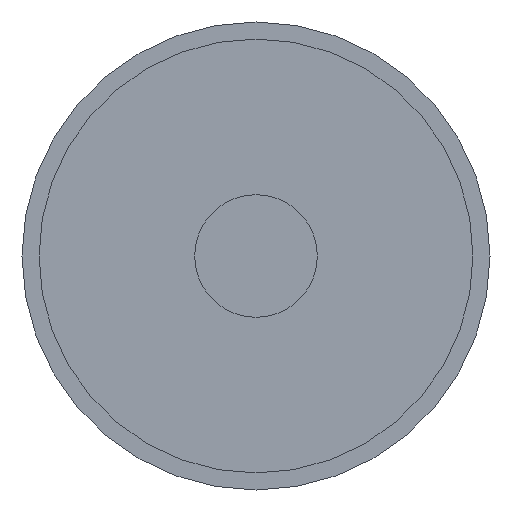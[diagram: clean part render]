
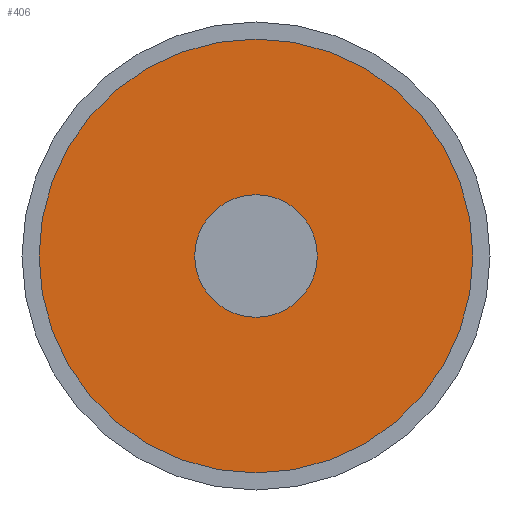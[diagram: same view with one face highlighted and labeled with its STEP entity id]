
A CAD part, front view. The second image highlights one B-rep face of the part: STEP entity #406.
In plain terms, the highlighted planar face has unit normal (0, -1, 0).
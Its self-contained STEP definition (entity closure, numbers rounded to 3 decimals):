
#349=CARTESIAN_POINT('',(-87.832,87.62,0.0));
#350=VERTEX_POINT('',#349);
#357=CARTESIAN_POINT('',(7.668,87.62,0.0));
#358=VERTEX_POINT('',#357);
#359=CARTESIAN_POINT('',(-40.082,87.62,0.0));
#360=DIRECTION('',(0.0,-1.0,0.0));
#361=DIRECTION('',(-1.0,0.0,0.0));
#362=AXIS2_PLACEMENT_3D('',#359,#360,#361);
#363=CIRCLE('',#362,47.75);
#364=EDGE_CURVE('',#358,#350,#363,.T.);
#366=CARTESIAN_POINT('',(-40.082,87.62,0.0));
#367=DIRECTION('',(0.0,-1.0,0.0));
#368=DIRECTION('',(-1.0,0.0,0.0));
#369=AXIS2_PLACEMENT_3D('',#366,#367,#368);
#370=CIRCLE('',#369,47.75);
#371=EDGE_CURVE('',#350,#358,#370,.T.);
#377=CARTESIAN_POINT('',(-135.582,87.62,95.5));
#378=DIRECTION('',(0.0,-1.0,0.0));
#379=DIRECTION('',(0.0,0.0,-1.0));
#380=AXIS2_PLACEMENT_3D('',#377,#378,#379);
#381=PLANE('',#380);
#382=ORIENTED_EDGE('',*,*,#371,.T.);
#383=ORIENTED_EDGE('',*,*,#364,.T.);
#384=EDGE_LOOP('',(#382,#383));
#385=FACE_OUTER_BOUND('',#384,.T.);
#386=CARTESIAN_POINT('',(-26.582,87.62,0.0));
#387=VERTEX_POINT('',#386);
#388=CARTESIAN_POINT('',(-53.582,87.62,0.0));
#389=VERTEX_POINT('',#388);
#390=CARTESIAN_POINT('',(-40.082,87.62,0.0));
#391=DIRECTION('',(0.0,-1.0,0.0));
#392=DIRECTION('',(-1.0,0.0,0.0));
#393=AXIS2_PLACEMENT_3D('',#390,#391,#392);
#394=CIRCLE('',#393,13.5);
#395=EDGE_CURVE('',#387,#389,#394,.T.);
#396=ORIENTED_EDGE('',*,*,#395,.F.);
#397=CARTESIAN_POINT('',(-40.082,87.62,0.0));
#398=DIRECTION('',(0.0,-1.0,0.0));
#399=DIRECTION('',(-1.0,0.0,0.0));
#400=AXIS2_PLACEMENT_3D('',#397,#398,#399);
#401=CIRCLE('',#400,13.5);
#402=EDGE_CURVE('',#389,#387,#401,.T.);
#403=ORIENTED_EDGE('',*,*,#402,.F.);
#404=EDGE_LOOP('',(#396,#403));
#405=FACE_BOUND('',#404,.T.);
#406=ADVANCED_FACE('',(#385,#405),#381,.T.);
